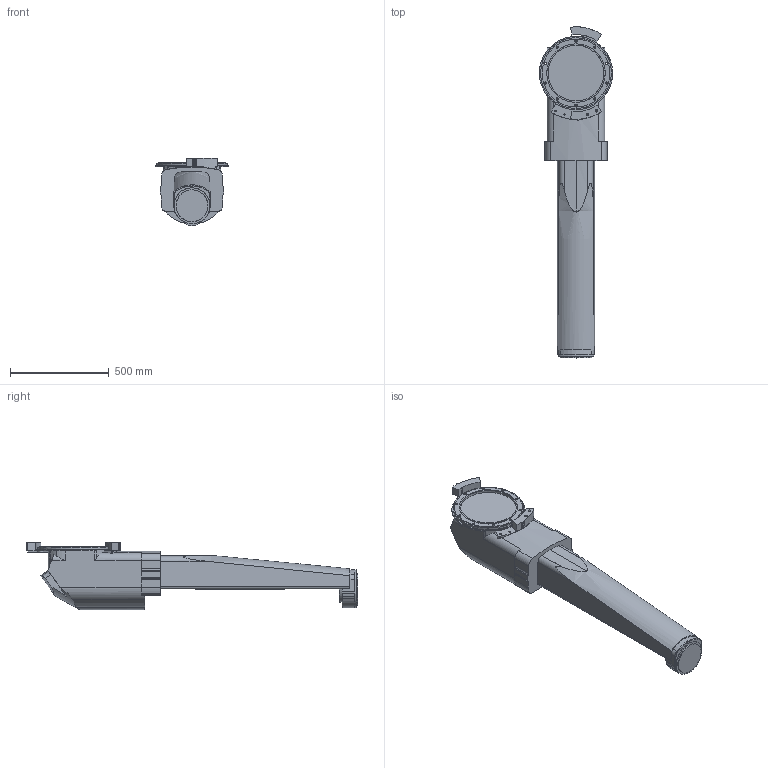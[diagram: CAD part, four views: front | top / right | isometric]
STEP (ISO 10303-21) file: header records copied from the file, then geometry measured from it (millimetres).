
FILE_DESCRIPTION (( 'STEP AP214' ), '1' );
FILE_NAME ('IRB5500_12_T00F71B41V31H51_rev1_4.step', '2006-09-01T12:04:23', ( 'Jonas Eriksson' ), ( '' ), 'SwSTEP 2.0', 'SolidWorks 2004334', '' );
FILE_SCHEMA (( 'AUTOMOTIVE_DESIGN' ));
Length unit declared in the file: millimetre
Products named in the file (1): IRB5500_12_T00F71B41V31H51_rev1_4
Bounding box: 369.97 x 1676.89 x 339 mm (x, y, z)
Volume: 68403516.8 mm3; surface area: 1514538.8 mm2
Topology: 1 solids, 11 shells, 305 faces, 807 edges, 539 vertices
Faces by surface type: cylinder 165, plane 119, bspline 21
Entity records: 25729 total; most frequent: CARTESIAN_POINT 15455, ORIENTED_EDGE 1614, DIRECTION 1110, EDGE_CURVE 807, VERTEX_POINT 539, VECTOR 372, LINE 372, AXIS2_PLACEMENT_3D 369
